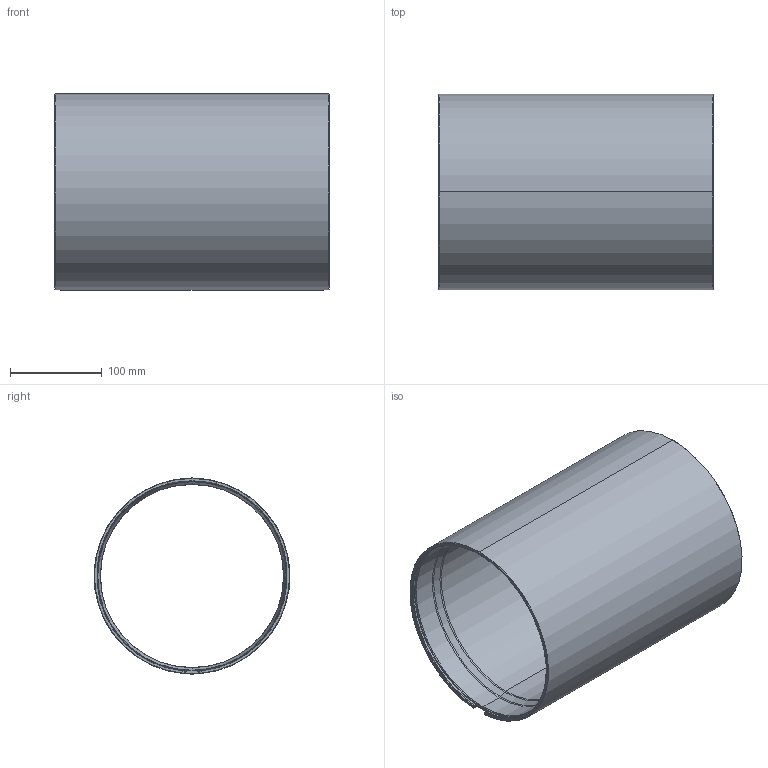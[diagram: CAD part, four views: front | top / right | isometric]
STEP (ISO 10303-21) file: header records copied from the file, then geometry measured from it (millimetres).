
FILE_DESCRIPTION (( 'STEP AP203' ), '1' );
FILE_NAME ('BR-106282-300_RevA.step', '2026-01-13T23:32:33', ( '' ), ( '' ), 'SwSTEP 2.0', 'SolidWorks 2024', '' );
FILE_SCHEMA (( 'CONFIG_CONTROL_DESIGN' ));
Length unit declared in the file: millimetre
Products named in the file (1): BR-106282-300
Bounding box: 300 x 214.01 x 214.2 mm (x, y, z)
Volume: 1229243 mm3; surface area: 396889.8 mm2
Topology: 1 solids, 1 shells, 86 faces, 224 edges, 138 vertices
Faces by surface type: torus 20, cylinder 20, bspline 20, cone 14, plane 12
Entity records: 5275 total; most frequent: CARTESIAN_POINT 3315, ORIENTED_EDGE 448, DIRECTION 326, EDGE_CURVE 224, AXIS2_PLACEMENT_3D 143, VERTEX_POINT 138, B_SPLINE_CURVE_WITH_KNOTS 104, EDGE_LOOP 86
